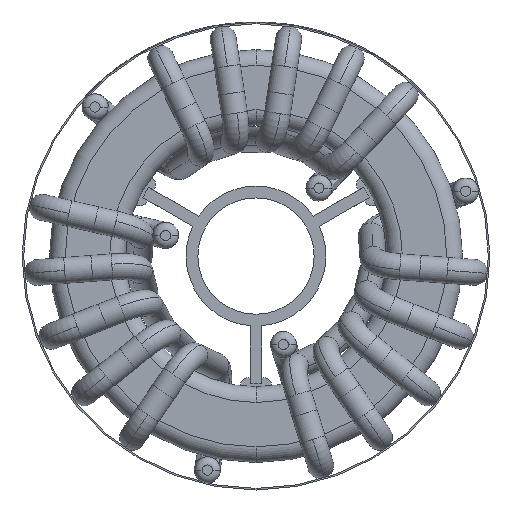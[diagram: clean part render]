
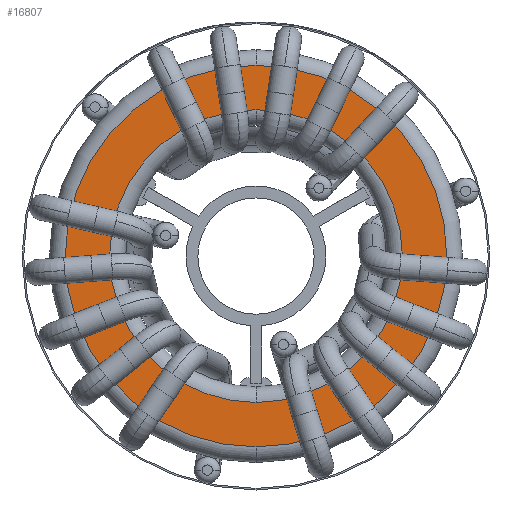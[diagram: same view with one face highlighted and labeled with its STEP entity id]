
A CAD part, front view. The second image highlights one B-rep face of the part: STEP entity #16807.
In plain terms, the highlighted planar face has unit normal (0, -1, 0).
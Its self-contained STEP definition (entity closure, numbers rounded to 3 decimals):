
#1766 = CARTESIAN_POINT ( 'NONE',  ( 0., -8.425, 18.665 ) ) ;
#2933 = CARTESIAN_POINT ( 'NONE',  ( 0., -8.425, 0. ) ) ;
#3180 = ORIENTED_EDGE ( 'NONE', *, *, #22266, .T. ) ;
#5819 = CARTESIAN_POINT ( 'NONE',  ( 0., -8.425, 0. ) ) ;
#6514 = FACE_OUTER_BOUND ( 'NONE', #38104, .T. ) ;
#6830 = PLANE ( 'NONE',  #15339 ) ;
#7029 = CARTESIAN_POINT ( 'NONE',  ( 0., -8.425, -24.32 ) ) ;
#7216 = DIRECTION ( 'NONE',  ( 0., -1., 0. ) ) ;
#8165 = DIRECTION ( 'NONE',  ( 0., 0., 1. ) ) ;
#8178 = CIRCLE ( 'NONE', #17296, 24.32 ) ;
#11286 = CARTESIAN_POINT ( 'NONE',  ( 0., -8.425, 0. ) ) ;
#11738 = AXIS2_PLACEMENT_3D ( 'NONE', #11286, #14951, #8165 ) ;
#12601 = VERTEX_POINT ( 'NONE', #7029 ) ;
#12639 = DIRECTION ( 'NONE',  ( 0., 0., 1. ) ) ;
#13466 = VERTEX_POINT ( 'NONE', #1766 ) ;
#14951 = DIRECTION ( 'NONE',  ( 0., 1., 0. ) ) ;
#15339 = AXIS2_PLACEMENT_3D ( 'NONE', #40102, #33342, #40402 ) ;
#16532 = VERTEX_POINT ( 'NONE', #32046 ) ;
#16807 = ADVANCED_FACE ( 'NONE', ( #24282, #6514 ), #6830, .F. ) ;
#17296 = AXIS2_PLACEMENT_3D ( 'NONE', #22815, #32653, #12639 ) ;
#18077 = AXIS2_PLACEMENT_3D ( 'NONE', #5819, #35845, #19026 ) ;
#18820 = CIRCLE ( 'NONE', #20554, 24.32 ) ;
#19026 = DIRECTION ( 'NONE',  ( 0., 0., 1. ) ) ;
#20554 = AXIS2_PLACEMENT_3D ( 'NONE', #2933, #7216, #30650 ) ;
#22266 = EDGE_CURVE ( 'NONE', #12601, #34962, #18820, .T. ) ;
#22815 = CARTESIAN_POINT ( 'NONE',  ( 0., -8.425, 0. ) ) ;
#24282 = FACE_BOUND ( 'NONE', #35530, .T. ) ;
#25948 = EDGE_CURVE ( 'NONE', #34962, #12601, #8178, .T. ) ;
#28309 = ORIENTED_EDGE ( 'NONE', *, *, #25948, .T. ) ;
#30650 = DIRECTION ( 'NONE',  ( 0., 0., 1. ) ) ;
#31575 = EDGE_CURVE ( 'NONE', #13466, #16532, #40066, .T. ) ;
#32046 = CARTESIAN_POINT ( 'NONE',  ( 0., -8.425, -18.665 ) ) ;
#32653 = DIRECTION ( 'NONE',  ( 0., -1., 0. ) ) ;
#33342 = DIRECTION ( 'NONE',  ( 0., 1., 0. ) ) ;
#34507 = EDGE_CURVE ( 'NONE', #16532, #13466, #41842, .T. ) ;
#34962 = VERTEX_POINT ( 'NONE', #37599 ) ;
#35378 = ORIENTED_EDGE ( 'NONE', *, *, #31575, .T. ) ;
#35530 = EDGE_LOOP ( 'NONE', ( #35378, #40706 ) ) ;
#35845 = DIRECTION ( 'NONE',  ( 0., 1., 0. ) ) ;
#37599 = CARTESIAN_POINT ( 'NONE',  ( 0., -8.425, 24.32 ) ) ;
#38104 = EDGE_LOOP ( 'NONE', ( #28309, #3180 ) ) ;
#40066 = CIRCLE ( 'NONE', #18077, 18.665 ) ;
#40102 = CARTESIAN_POINT ( 'NONE',  ( 0., -8.425, 0. ) ) ;
#40402 = DIRECTION ( 'NONE',  ( 0., 0., 1. ) ) ;
#40706 = ORIENTED_EDGE ( 'NONE', *, *, #34507, .T. ) ;
#41842 = CIRCLE ( 'NONE', #11738, 18.665 ) ;
